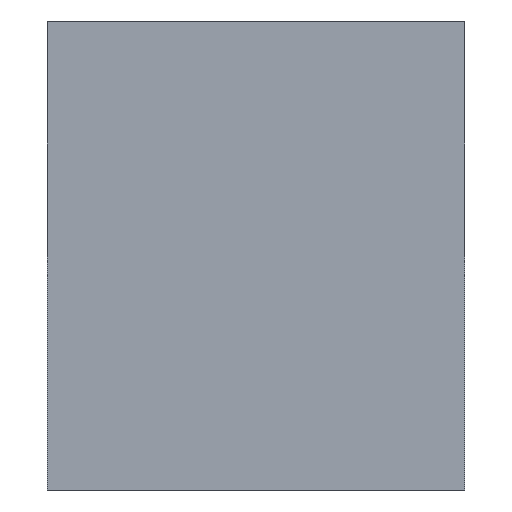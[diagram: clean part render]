
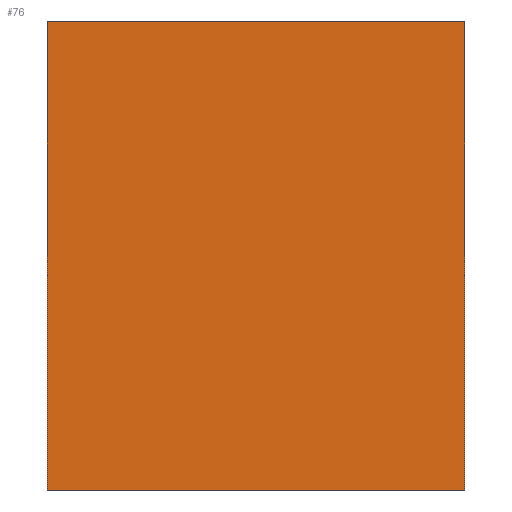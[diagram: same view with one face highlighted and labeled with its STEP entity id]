
A CAD part, left-side view. The second image highlights one B-rep face of the part: STEP entity #76.
In plain terms, the highlighted planar face has unit normal (-1, 0, 0).
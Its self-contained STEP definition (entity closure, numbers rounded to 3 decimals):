
#71=FACE_OUTER_BOUND('',#266,.T.);
#76=ADVANCED_FACE('',(#71),#119,.T.);
#119=PLANE('',#615);
#136=LINE('',#878,#148);
#138=LINE('',#890,#150);
#143=LINE('',#914,#155);
#144=LINE('',#916,#156);
#148=VECTOR('',#692,1.);
#150=VECTOR('',#704,1.);
#155=VECTOR('',#725,1.);
#156=VECTOR('',#728,1.);
#266=EDGE_LOOP('',(#365,#366,#367,#368));
#365=ORIENTED_EDGE('',*,*,#506,.T.);
#366=ORIENTED_EDGE('',*,*,#524,.T.);
#367=ORIENTED_EDGE('',*,*,#512,.F.);
#368=ORIENTED_EDGE('',*,*,#525,.T.);
#452=VERTEX_POINT('',#877);
#453=VERTEX_POINT('',#879);
#458=VERTEX_POINT('',#891);
#459=VERTEX_POINT('',#892);
#506=EDGE_CURVE('',#453,#452,#136,.T.);
#512=EDGE_CURVE('',#458,#459,#138,.T.);
#524=EDGE_CURVE('',#452,#459,#143,.T.);
#525=EDGE_CURVE('',#458,#453,#144,.T.);
#615=AXIS2_PLACEMENT_3D('',#917,#729,#730);
#692=DIRECTION('',(0.,0.,1.));
#704=DIRECTION('',(0.,0.,1.));
#725=DIRECTION('',(0.,1.,0.));
#728=DIRECTION('',(0.,-1.,0.));
#729=DIRECTION('',(-1.,0.,0.));
#730=DIRECTION('',(0.,0.,1.));
#877=CARTESIAN_POINT('',(-37.,-25.,0.));
#878=CARTESIAN_POINT('',(-37.,-25.,-56.));
#879=CARTESIAN_POINT('',(-37.,-25.,-56.));
#890=CARTESIAN_POINT('',(-37.,25.,-56.));
#891=CARTESIAN_POINT('',(-37.,25.,-56.));
#892=CARTESIAN_POINT('',(-37.,25.,0.));
#914=CARTESIAN_POINT('',(-37.,0.,0.));
#916=CARTESIAN_POINT('',(-37.,0.,-56.));
#917=CARTESIAN_POINT('',(-37.,0.,-56.));
